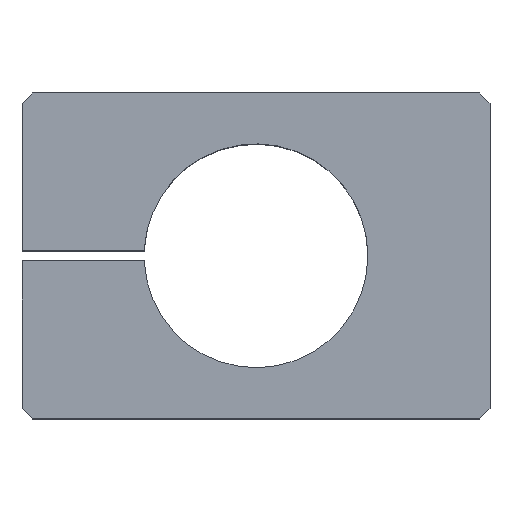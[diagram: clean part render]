
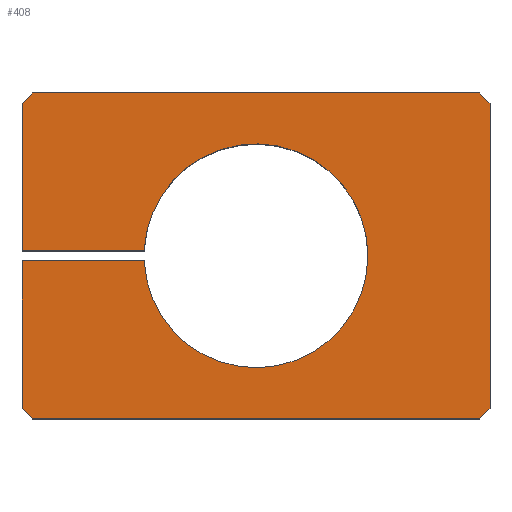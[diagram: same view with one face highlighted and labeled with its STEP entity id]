
A CAD part, top view. The second image highlights one B-rep face of the part: STEP entity #408.
In plain terms, the highlighted planar face has unit normal (0, 0, 1).
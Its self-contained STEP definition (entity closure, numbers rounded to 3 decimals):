
#11 = VERTEX_POINT ( 'NONE', #194 ) ;
#18 = CARTESIAN_POINT ( 'NONE',  ( -10.989, 0.5, 12.5 ) ) ;
#29 = EDGE_CURVE ( 'NONE', #234, #264, #509, .T. ) ;
#37 = ORIENTED_EDGE ( 'NONE', *, *, #125, .T. ) ;
#47 = DIRECTION ( 'NONE',  ( 0., 0., 1. ) ) ;
#51 = DIRECTION ( 'NONE',  ( 1., 0., 0. ) ) ;
#58 = DIRECTION ( 'NONE',  ( -1., 0., 0. ) ) ;
#60 = VECTOR ( 'NONE', #172, 1000. ) ;
#103 = CARTESIAN_POINT ( 'NONE',  ( -23., 16., 12.5 ) ) ;
#119 = VERTEX_POINT ( 'NONE', #654 ) ;
#125 = EDGE_CURVE ( 'NONE', #482, #259, #162, .T. ) ;
#129 = EDGE_CURVE ( 'NONE', #559, #11, #916, .T. ) ;
#131 = CARTESIAN_POINT ( 'NONE',  ( -35., 0.5, 12.5 ) ) ;
#141 = CARTESIAN_POINT ( 'NONE',  ( -22., -16., 12.5 ) ) ;
#144 = VECTOR ( 'NONE', #51, 1000. ) ;
#151 = CARTESIAN_POINT ( 'NONE',  ( 0., 0., 12.5 ) ) ;
#153 = CARTESIAN_POINT ( 'NONE',  ( -23., -16., 12.5 ) ) ;
#154 = ORIENTED_EDGE ( 'NONE', *, *, #907, .T. ) ;
#162 = LINE ( 'NONE', #153, #896 ) ;
#172 = DIRECTION ( 'NONE',  ( 0.707, 0.707, 0. ) ) ;
#173 = CARTESIAN_POINT ( 'NONE',  ( -35., -0.5, 12.5 ) ) ;
#175 = EDGE_CURVE ( 'NONE', #920, #119, #512, .T. ) ;
#181 = CARTESIAN_POINT ( 'NONE',  ( 23., -15., 12.5 ) ) ;
#185 = ORIENTED_EDGE ( 'NONE', *, *, #29, .F. ) ;
#194 = CARTESIAN_POINT ( 'NONE',  ( 23., 15., 12.5 ) ) ;
#223 = ORIENTED_EDGE ( 'NONE', *, *, #653, .T. ) ;
#224 = ORIENTED_EDGE ( 'NONE', *, *, #175, .T. ) ;
#228 = LINE ( 'NONE', #181, #60 ) ;
#234 = VERTEX_POINT ( 'NONE', #458 ) ;
#235 = CIRCLE ( 'NONE', #412, 11. ) ;
#259 = VERTEX_POINT ( 'NONE', #306 ) ;
#264 = VERTEX_POINT ( 'NONE', #18 ) ;
#296 = LINE ( 'NONE', #131, #476 ) ;
#305 = VECTOR ( 'NONE', #399, 1000. ) ;
#306 = CARTESIAN_POINT ( 'NONE',  ( -23., 0.5, 12.5 ) ) ;
#312 = VECTOR ( 'NONE', #715, 1000. ) ;
#324 = EDGE_CURVE ( 'NONE', #264, #259, #296, .T. ) ;
#344 = CARTESIAN_POINT ( 'NONE',  ( 22., 16., 12.5 ) ) ;
#345 = CARTESIAN_POINT ( 'NONE',  ( -10.989, -0.5, 12.5 ) ) ;
#346 = CARTESIAN_POINT ( 'NONE',  ( 22., -16., 12.5 ) ) ;
#349 = ORIENTED_EDGE ( 'NONE', *, *, #764, .T. ) ;
#351 = DIRECTION ( 'NONE',  ( -1., 0., 0. ) ) ;
#353 = ORIENTED_EDGE ( 'NONE', *, *, #849, .F. ) ;
#355 = AXIS2_PLACEMENT_3D ( 'NONE', #151, #436, #846 ) ;
#399 = DIRECTION ( 'NONE',  ( 1., 0., 0. ) ) ;
#404 = VECTOR ( 'NONE', #865, 1000. ) ;
#406 = DIRECTION ( 'NONE',  ( 0., 0., -1. ) ) ;
#408 = ADVANCED_FACE ( 'NONE', ( #615 ), #812, .F. ) ;
#411 = DIRECTION ( 'NONE',  ( 1., 0., 0. ) ) ;
#412 = AXIS2_PLACEMENT_3D ( 'NONE', #673, #47, #411 ) ;
#417 = VECTOR ( 'NONE', #351, 1000. ) ;
#425 = EDGE_CURVE ( 'NONE', #544, #559, #228, .T. ) ;
#436 = DIRECTION ( 'NONE',  ( 0., 0., 1. ) ) ;
#452 = VERTEX_POINT ( 'NONE', #882 ) ;
#458 = CARTESIAN_POINT ( 'NONE',  ( 11., 0., 12.5 ) ) ;
#475 = VECTOR ( 'NONE', #746, 1000. ) ;
#476 = VECTOR ( 'NONE', #58, 1000. ) ;
#478 = EDGE_CURVE ( 'NONE', #580, #920, #592, .T. ) ;
#480 = CARTESIAN_POINT ( 'NONE',  ( -23., -0.5, 12.5 ) ) ;
#482 = VERTEX_POINT ( 'NONE', #681 ) ;
#504 = DIRECTION ( 'NONE',  ( -0.707, 0.707, 0. ) ) ;
#509 = CIRCLE ( 'NONE', #355, 11. ) ;
#510 = VECTOR ( 'NONE', #504, 1000. ) ;
#512 = LINE ( 'NONE', #141, #312 ) ;
#515 = LINE ( 'NONE', #173, #144 ) ;
#526 = LINE ( 'NONE', #344, #510 ) ;
#533 = VECTOR ( 'NONE', #844, 1000. ) ;
#542 = CARTESIAN_POINT ( 'NONE',  ( 0., 0., 12.5 ) ) ;
#543 = CARTESIAN_POINT ( 'NONE',  ( -23., 15., 12.5 ) ) ;
#544 = VERTEX_POINT ( 'NONE', #346 ) ;
#559 = VERTEX_POINT ( 'NONE', #830 ) ;
#580 = VERTEX_POINT ( 'NONE', #480 ) ;
#592 = LINE ( 'NONE', #905, #404 ) ;
#594 = DIRECTION ( 'NONE',  ( 0., -1., 0. ) ) ;
#601 = LINE ( 'NONE', #103, #417 ) ;
#610 = EDGE_CURVE ( 'NONE', #11, #452, #526, .T. ) ;
#615 = FACE_OUTER_BOUND ( 'NONE', #847, .T. ) ;
#630 = AXIS2_PLACEMENT_3D ( 'NONE', #542, #406, #908 ) ;
#647 = CARTESIAN_POINT ( 'NONE',  ( 23., -16., 12.5 ) ) ;
#650 = LINE ( 'NONE', #543, #475 ) ;
#653 = EDGE_CURVE ( 'NONE', #119, #544, #819, .T. ) ;
#654 = CARTESIAN_POINT ( 'NONE',  ( -22., -16., 12.5 ) ) ;
#673 = CARTESIAN_POINT ( 'NONE',  ( 0., 0., 12.5 ) ) ;
#681 = CARTESIAN_POINT ( 'NONE',  ( -23., 15., 12.5 ) ) ;
#696 = CARTESIAN_POINT ( 'NONE',  ( -23., -15., 12.5 ) ) ;
#698 = CARTESIAN_POINT ( 'NONE',  ( -22., 16., 12.5 ) ) ;
#715 = DIRECTION ( 'NONE',  ( 0.707, -0.707, 0. ) ) ;
#717 = ORIENTED_EDGE ( 'NONE', *, *, #610, .T. ) ;
#726 = VERTEX_POINT ( 'NONE', #698 ) ;
#736 = ORIENTED_EDGE ( 'NONE', *, *, #425, .T. ) ;
#746 = DIRECTION ( 'NONE',  ( -0.707, -0.707, 0. ) ) ;
#759 = EDGE_CURVE ( 'NONE', #861, #234, #235, .T. ) ;
#761 = ORIENTED_EDGE ( 'NONE', *, *, #324, .F. ) ;
#764 = EDGE_CURVE ( 'NONE', #452, #726, #601, .T. ) ;
#771 = ORIENTED_EDGE ( 'NONE', *, *, #759, .F. ) ;
#812 = PLANE ( 'NONE',  #630 ) ;
#817 = CARTESIAN_POINT ( 'NONE',  ( -23., -16., 12.5 ) ) ;
#819 = LINE ( 'NONE', #817, #305 ) ;
#823 = ORIENTED_EDGE ( 'NONE', *, *, #478, .T. ) ;
#830 = CARTESIAN_POINT ( 'NONE',  ( 23., -15., 12.5 ) ) ;
#844 = DIRECTION ( 'NONE',  ( 0., 1., 0. ) ) ;
#846 = DIRECTION ( 'NONE',  ( 1., 0., 0. ) ) ;
#847 = EDGE_LOOP ( 'NONE', ( #771, #353, #823, #224, #223, #736, #911, #717, #349, #154, #37, #761, #185 ) ) ;
#849 = EDGE_CURVE ( 'NONE', #580, #861, #515, .T. ) ;
#861 = VERTEX_POINT ( 'NONE', #345 ) ;
#865 = DIRECTION ( 'NONE',  ( 0., -1., 0. ) ) ;
#882 = CARTESIAN_POINT ( 'NONE',  ( 22., 16., 12.5 ) ) ;
#896 = VECTOR ( 'NONE', #594, 1000. ) ;
#905 = CARTESIAN_POINT ( 'NONE',  ( -23., -16., 12.5 ) ) ;
#907 = EDGE_CURVE ( 'NONE', #726, #482, #650, .T. ) ;
#908 = DIRECTION ( 'NONE',  ( -1., 0., 0. ) ) ;
#911 = ORIENTED_EDGE ( 'NONE', *, *, #129, .T. ) ;
#916 = LINE ( 'NONE', #647, #533 ) ;
#920 = VERTEX_POINT ( 'NONE', #696 ) ;
